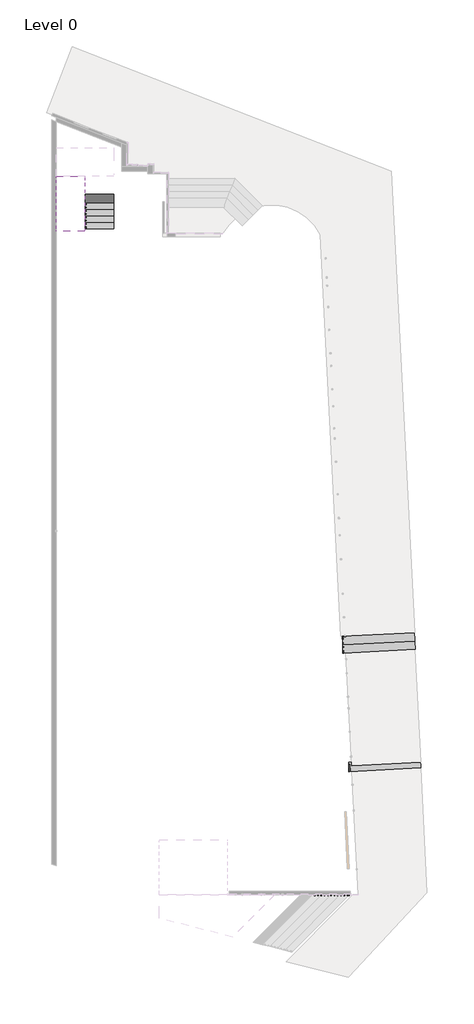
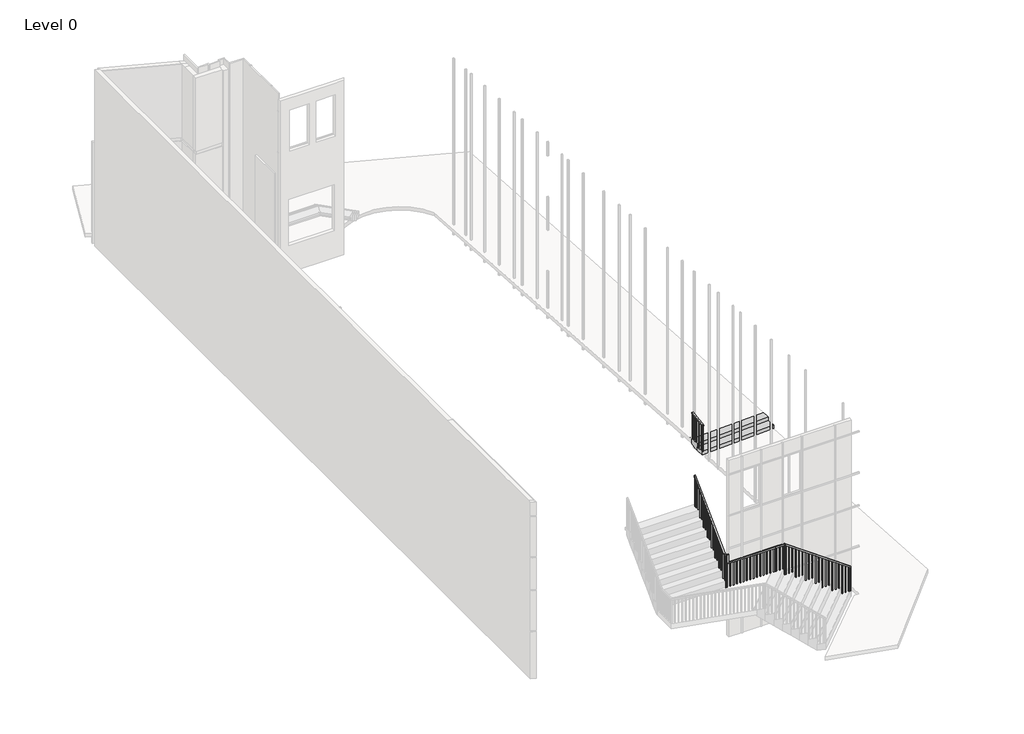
# One storey, part 5 of 6: 4 railings, 4 stair flights.
"""IFC4 building model written with IfcOpenShell, lengths in millimetres."""

from ifc_helpers import new_model, si_unit, frame, origin, place, context, project, spatial, polyline, outline, extrude, faceted_brep, element, save

model = new_model("IFC4")

# Units and contexts
model_context = context("Model", 3, world=origin())
ifc_project = project(units=[si_unit("LENGTHUNIT", "METRE", prefix="MILLI")], contexts=[model_context])

# Site, building, storey
site = spatial("IfcSite", under=ifc_project)
building = spatial("IfcBuilding", under=site)
storey = spatial("IfcBuildingStorey", under=building, Name="Level 0", Elevation=0.0)

# Railings
placement = place(None, origin())
element("IfcRailing", 1, ObjectType="1100mm", at=placement, inside=storey, context=model_context, shape_type="SweptSolid", body=[
    extrude(outline(polyline([(12495.266805, -12839.3681014), (12445.3314922, -12841.9106456), (12430.0762266, -12542.2987686), (12480.0115395, -12539.7562243), (12495.266805, -12839.3681014)])), frame((0.0, 0.0, 1200.0), z_axis=(0.0, 0.0, 1.0), x_axis=(1.0, 0.0, 0.0)), (0.0, 0.0, 1.0), 50.0),
    extrude(outline(polyline([(12447.0095073, -12629.04993), (12445.7382352, -12604.0822736), (12470.7058916, -12602.8110014), (12471.9771637, -12627.7786579), (12447.0095073, -12629.04993)])), frame((0.0, 0.0, 150.0), z_axis=(0.0, 0.0, 1.0), x_axis=(1.0, 0.0, 0.0)), (0.0, 0.0, 1.0), 1050.0),
    extrude(outline(polyline([(12454.6371401, -12778.8558685), (12453.3658679, -12753.8882121), (12478.3335244, -12752.61694), (12479.6047965, -12777.5845964), (12454.6371401, -12778.8558685)])), frame((0.0, 0.0, 150.0), z_axis=(0.0, 0.0, 1.0), x_axis=(1.0, 0.0, 0.0)), (0.0, 0.0, 1.0), 1050.0),
    extrude(outline(polyline([(12443.831327, -12566.6307889), (12442.5600548, -12541.6631325), (12467.5277113, -12540.3918604), (12468.7989834, -12565.3595168), (12443.831327, -12566.6307889)])), frame((0.0, 0.0, 150.0), z_axis=(0.0, 0.0, 1.0), x_axis=(1.0, 0.0, 0.0)), (0.0, 0.0, 1.0), 1050.0),
    extrude(outline(polyline([(12457.8153204, -12841.2750096), (12456.5440483, -12816.3073532), (12481.5117047, -12815.036081), (12482.7829768, -12840.0037374), (12457.8153204, -12841.2750096)])), frame((0.0, 0.0, 150.0), z_axis=(0.0, 0.0, 1.0), x_axis=(1.0, 0.0, 0.0)), (0.0, 0.0, 1.0), 1050.0),
])
element("IfcRailing", 2, ObjectType="1100mm", at=placement, inside=storey, context=model_context, shape_type="SweptSolid", body=[
    extrude(outline(polyline([(-10.7142857, -50.0), (0.0, 0.0), (715.8910532, 0.0), (705.1767675, -50.0), (-10.7142857, -50.0)])), frame((12187.8662587, -7785.3194312, 1475.0), z_axis=(0.9987062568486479, 0.05085088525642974, 0.0), x_axis=(-0.04972211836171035, 0.9765373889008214, 0.20952908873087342)), (0.0, 0.0, 1.0), 50.0),
    extrude(outline(polyline([(102.6785715, 0.0), (97.3214286, 25.0), (1205.1149248, 25.0), (1205.1149248, 0.0), (102.6785715, 0.0)])), frame((12169.8395557, -7185.460041, 1655.1149248), z_axis=(0.998706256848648, 0.050850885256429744, 0.0), x_axis=(0.0, 0.0, -1.0)), (0.0, 0.0, 1.0), 25.0),
    extrude(outline(polyline([(102.6785715, 0.0), (97.3214286, 25.0), (1167.6149248, 25.0), (1167.6149248, 0.0), (102.6785715, 0.0)])), frame((12178.7384607, -7360.2336359, 1617.6149248), z_axis=(0.998706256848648, 0.050850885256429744, 0.0), x_axis=(0.0, 0.0, -1.0)), (0.0, 0.0, 1.0), 25.0),
    extrude(outline(polyline([(102.6785715, 0.0), (97.3214286, 25.0), (1280.1149248, 25.0), (1280.1149248, 0.0), (102.6785715, 0.0)])), frame((12187.6373656, -7535.0072309, 1580.1149248), z_axis=(0.998706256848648, 0.050850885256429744, 0.0), x_axis=(0.0, 0.0, -1.0)), (0.0, 0.0, 1.0), 25.0),
    extrude(outline(polyline([(102.6785715, 0.0), (97.3214286, 25.0), (1242.6149248, 25.0), (1242.6149248, 0.0), (102.6785715, 0.0)])), frame((12196.5362705, -7709.7808258, 1542.6149248), z_axis=(0.998706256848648, 0.050850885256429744, 0.0), x_axis=(0.0, 0.0, -1.0)), (0.0, 0.0, 1.0), 25.0),
    extrude(outline(polyline([(102.6785714, 0.0), (97.3214285, 25.0), (1221.1863533, 25.0), (1221.1863533, 0.0), (102.6785714, 0.0)])), frame((12166.0257393, -7110.5570717, 1671.1863533), z_axis=(0.998706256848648, 0.050850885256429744, 0.0), x_axis=(0.0, 0.0, -1.0)), (0.0, 0.0, 1.0), 25.0),
    extrude(outline(polyline([(102.6785714, 0.0), (97.3214286, 25.0), (1226.5434962, 25.0), (1226.5434962, 0.0), (102.6785714, 0.0)])), frame((12200.3500869, -7784.6837951, 1526.5434962), z_axis=(0.998706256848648, 0.050850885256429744, 0.0), x_axis=(0.0, 0.0, -1.0)), (0.0, 0.0, 1.0), 25.0),
])
element("IfcRailing", 3, ObjectType="1100mm", at=placement, inside=storey, context=model_context, shape_type="SolidModel", body=[
    faceted_brep([(1179.9765888, 10328.8506586, 1377.7777778), (1179.9765888, 10328.8506586, 1307.3471386), (1229.9765888, 10328.8506586, 1307.3471386), (1229.9765888, 10328.8506586, 1377.7777778), (1179.9765888, 12288.8506586, 3322.2222222), (1179.9765888, 12309.4447429, 3272.2222222), (1229.9765888, 12309.4447429, 3272.2222222), (1229.9765888, 12288.8506586, 3322.2222222), (1179.9765888, 12569.2506586, 3322.2222222), (1179.9765888, 12569.2506586, 3272.2222222), (1229.9765888, 12619.2506586, 3272.2222222), (1229.9765888, 12619.2506586, 3322.2222222), (1159.5709975, 12569.2506586, 3322.2222222), (1159.5709975, 12619.2506586, 3322.2222222), (1109.5709975, 12619.2506586, 3272.2222222), (1109.5709975, 12569.2506586, 3272.2222222)], [[[0, 1, 2, 3]], [[1, 0, 4, 5]], [[2, 1, 5, 6]], [[3, 2, 6, 7]], [[0, 3, 7, 4]], [[5, 4, 8, 9]], [[6, 5, 9, 10]], [[7, 6, 10, 11]], [[4, 7, 11, 8]], [[12, 13, 14, 15]], [[9, 8, 12, 15]], [[10, 9, 15, 14]], [[11, 10, 14, 13]], [[8, 11, 13, 12]]]),
    faceted_brep([(1159.5709975, 12569.2506586, 3322.2222222), (1109.5709975, 12569.2506586, 3272.2222222), (1109.5709975, 12619.2506586, 3272.2222222), (1159.5709975, 12619.2506586, 3322.2222222), (1159.5709975, 12569.2506586, 3529.1725355), (1159.5709975, 12619.2506586, 3550.0), (1109.5709975, 12619.2506586, 3550.0), (1109.5709975, 12569.2506586, 3529.1725355)], [[[0, 1, 2, 3]], [[4, 5, 6, 7]], [[1, 0, 4, 7]], [[2, 1, 7, 6]], [[3, 2, 6, 5]], [[0, 3, 5, 4]]]),
    faceted_brep([(1159.5709975, 12619.2506586, 3550.0), (1159.5709975, 12569.2506586, 3529.1725355), (1109.5709975, 12569.2506586, 3529.1725355), (1109.5709975, 12619.2506586, 3550.0), (1159.5709975, 10328.8506586, 5822.2222222), (1109.5709975, 10328.8506586, 5822.2222222), (1109.5709975, 10328.8506586, 5751.7915831), (1159.5709975, 10328.8506586, 5751.7915831)], [[[0, 1, 2, 3]], [[4, 5, 6, 7]], [[1, 0, 4, 7]], [[2, 1, 7, 6]], [[3, 2, 6, 5]], [[0, 3, 5, 4]]]),
    extrude(outline(polyline([(10436.7506586, 4444.4444444), (10411.7506586, 4444.4444444), (10411.7506586, 5669.5495196), (10436.7506586, 5644.7479323), (10436.7506586, 4444.4444444)])), frame((1122.0709975, 0.0, 0.0), z_axis=(1.0, 0.0, 0.0), x_axis=(0.0, 1.0, 0.0)), (0.0, 0.0, 1.0), 25.0),
    extrude(outline(polyline([(10576.7506586, 4444.4444444), (10551.7506586, 4444.4444444), (10551.7506586, 5530.6606307), (10576.7506586, 5505.8590434), (10576.7506586, 4444.4444444)])), frame((1122.0709975, 0.0, 0.0), z_axis=(1.0, 0.0, 0.0), x_axis=(0.0, 1.0, 0.0)), (0.0, 0.0, 1.0), 25.0),
    extrude(outline(polyline([(10716.7506586, 4166.6666667), (10691.7506586, 4166.6666667), (10691.7506586, 5391.7717418), (10716.7506586, 5366.9701545), (10716.7506586, 4166.6666667)])), frame((1122.0709975, 0.0, 0.0), z_axis=(1.0, 0.0, 0.0), x_axis=(0.0, 1.0, 0.0)), (0.0, 0.0, 1.0), 25.0),
    extrude(outline(polyline([(10856.7506586, 4166.6666667), (10831.7506586, 4166.6666667), (10831.7506586, 5252.8828529), (10856.7506586, 5228.0812656), (10856.7506586, 4166.6666667)])), frame((1122.0709975, 0.0, 0.0), z_axis=(1.0, 0.0, 0.0), x_axis=(0.0, 1.0, 0.0)), (0.0, 0.0, 1.0), 25.0),
    extrude(outline(polyline([(10996.7506586, 3888.8888889), (10971.7506586, 3888.8888889), (10971.7506586, 5113.993964), (10996.7506586, 5089.1923767), (10996.7506586, 3888.8888889)])), frame((1122.0709975, 0.0, 0.0), z_axis=(1.0, 0.0, 0.0), x_axis=(0.0, 1.0, 0.0)), (0.0, 0.0, 1.0), 25.0),
    extrude(outline(polyline([(11136.7506586, 3888.8888889), (11111.7506586, 3888.8888889), (11111.7506586, 4975.1050751), (11136.7506586, 4950.3034878), (11136.7506586, 3888.8888889)])), frame((1122.0709975, 0.0, 0.0), z_axis=(1.0, 0.0, 0.0), x_axis=(0.0, 1.0, 0.0)), (0.0, 0.0, 1.0), 25.0),
    extrude(outline(polyline([(11276.7506586, 3611.1111111), (11251.7506586, 3611.1111111), (11251.7506586, 4836.2161862), (11276.7506586, 4811.4145989), (11276.7506586, 3611.1111111)])), frame((1122.0709975, 0.0, 0.0), z_axis=(1.0, 0.0, 0.0), x_axis=(0.0, 1.0, 0.0)), (0.0, 0.0, 1.0), 25.0),
    extrude(outline(polyline([(11416.7506586, 3611.1111111), (11391.7506586, 3611.1111111), (11391.7506586, 4697.3272974), (11416.7506586, 4672.5257101), (11416.7506586, 3611.1111111)])), frame((1122.0709975, 0.0, 0.0), z_axis=(1.0, 0.0, 0.0), x_axis=(0.0, 1.0, 0.0)), (0.0, 0.0, 1.0), 25.0),
    extrude(outline(polyline([(11556.7506586, 3333.3333333), (11531.7506586, 3333.3333333), (11531.7506586, 4558.4384085), (11556.7506586, 4533.6368212), (11556.7506586, 3333.3333333)])), frame((1122.0709975, 0.0, 0.0), z_axis=(1.0, 0.0, 0.0), x_axis=(0.0, 1.0, 0.0)), (0.0, 0.0, 1.0), 25.0),
    extrude(outline(polyline([(11696.7506586, 3333.3333333), (11671.7506586, 3333.3333333), (11671.7506586, 4419.5495196), (11696.7506586, 4394.7479323), (11696.7506586, 3333.3333333)])), frame((1122.0709975, 0.0, 0.0), z_axis=(1.0, 0.0, 0.0), x_axis=(0.0, 1.0, 0.0)), (0.0, 0.0, 1.0), 25.0),
    extrude(outline(polyline([(11836.7506586, 3055.5555556), (11811.7506586, 3055.5555556), (11811.7506586, 4280.6606307), (11836.7506586, 4255.8590434), (11836.7506586, 3055.5555556)])), frame((1122.0709975, 0.0, 0.0), z_axis=(1.0, 0.0, 0.0), x_axis=(0.0, 1.0, 0.0)), (0.0, 0.0, 1.0), 25.0),
    extrude(outline(polyline([(11976.7506586, 3055.5555556), (11951.7506586, 3055.5555556), (11951.7506586, 4141.7717418), (11976.7506586, 4116.9701545), (11976.7506586, 3055.5555556)])), frame((1122.0709975, 0.0, 0.0), z_axis=(1.0, 0.0, 0.0), x_axis=(0.0, 1.0, 0.0)), (0.0, 0.0, 1.0), 25.0),
    extrude(outline(polyline([(12116.7506586, 2777.7777778), (12091.7506586, 2777.7777778), (12091.7506586, 4002.8828529), (12116.7506586, 3978.0812656), (12116.7506586, 2777.7777778)])), frame((1122.0709975, 0.0, 0.0), z_axis=(1.0, 0.0, 0.0), x_axis=(0.0, 1.0, 0.0)), (0.0, 0.0, 1.0), 25.0),
    extrude(outline(polyline([(12256.7506586, 2777.7777778), (12231.7506586, 2777.7777778), (12231.7506586, 3863.993964), (12256.7506586, 3839.1923767), (12256.7506586, 2777.7777778)])), frame((1122.0709975, 0.0, 0.0), z_axis=(1.0, 0.0, 0.0), x_axis=(0.0, 1.0, 0.0)), (0.0, 0.0, 1.0), 25.0),
    extrude(outline(polyline([(12396.7506586, 2500.0), (12371.7506586, 2500.0), (12371.7506586, 3725.1050751), (12396.7506586, 3700.3034878), (12396.7506586, 2500.0)])), frame((1122.0709975, 0.0, 0.0), z_axis=(1.0, 0.0, 0.0), x_axis=(0.0, 1.0, 0.0)), (0.0, 0.0, 1.0), 25.0),
    extrude(outline(polyline([(12536.7506586, 2500.0), (12511.7506586, 2500.0), (12511.7506586, 3586.2161862), (12536.7506586, 3561.4145989), (12536.7506586, 2500.0)])), frame((1122.0709975, 0.0, 0.0), z_axis=(1.0, 0.0, 0.0), x_axis=(0.0, 1.0, 0.0)), (0.0, 0.0, 1.0), 25.0),
    extrude(outline(polyline([(1147.4765888, 12581.7506586), (1122.4765888, 12581.7506586), (1122.4765888, 12606.7506586), (1147.4765888, 12606.7506586), (1147.4765888, 12581.7506586)])), frame((0.0, 0.0, 2222.2222222), z_axis=(0.0, 0.0, 1.0), x_axis=(1.0, 0.0, 0.0)), (0.0, 0.0, 1.0), 1050.0),
    extrude(outline(polyline([(1192.4765888, 12486.3506586), (1192.4765888, 12511.3506586), (1217.4765888, 12511.3506586), (1217.4765888, 12486.3506586), (1192.4765888, 12486.3506586)])), frame((0.0, 0.0, 2222.2222222), z_axis=(0.0, 0.0, 1.0), x_axis=(1.0, 0.0, 0.0)), (0.0, 0.0, 1.0), 1050.0),
    extrude(outline(polyline([(1192.4765888, 12346.3506586), (1192.4765888, 12371.3506586), (1217.4765888, 12371.3506586), (1217.4765888, 12346.3506586), (1192.4765888, 12346.3506586)])), frame((0.0, 0.0, 2222.2222222), z_axis=(0.0, 0.0, 1.0), x_axis=(1.0, 0.0, 0.0)), (0.0, 0.0, 1.0), 1050.0),
    extrude(outline(polyline([(12206.3506586, 3169.946345), (12231.3506586, 3194.7479323), (12231.3506586, 1944.4444444), (12206.3506586, 1944.4444444), (12206.3506586, 3169.946345)])), frame((1192.4765888, 0.0, 0.0), z_axis=(1.0, 0.0, 0.0), x_axis=(0.0, 1.0, 0.0)), (0.0, 0.0, 1.0), 25.0),
    extrude(outline(polyline([(12066.3506586, 3031.0574561), (12091.3506586, 3055.8590434), (12091.3506586, 1944.4444444), (12066.3506586, 1944.4444444), (12066.3506586, 3031.0574561)])), frame((1192.4765888, 0.0, 0.0), z_axis=(1.0, 0.0, 0.0), x_axis=(0.0, 1.0, 0.0)), (0.0, 0.0, 1.0), 25.0),
    extrude(outline(polyline([(11926.3506586, 2892.1685672), (11951.3506586, 2916.9701545), (11951.3506586, 1666.6666667), (11926.3506586, 1666.6666667), (11926.3506586, 2892.1685672)])), frame((1192.4765888, 0.0, 0.0), z_axis=(1.0, 0.0, 0.0), x_axis=(0.0, 1.0, 0.0)), (0.0, 0.0, 1.0), 25.0),
    extrude(outline(polyline([(11786.3506586, 2753.2796783), (11811.3506586, 2778.0812656), (11811.3506586, 1666.6666667), (11786.3506586, 1666.6666667), (11786.3506586, 2753.2796783)])), frame((1192.4765888, 0.0, 0.0), z_axis=(1.0, 0.0, 0.0), x_axis=(0.0, 1.0, 0.0)), (0.0, 0.0, 1.0), 25.0),
    extrude(outline(polyline([(11646.3506586, 2614.3907894), (11671.3506586, 2639.1923767), (11671.3506586, 1388.8888889), (11646.3506586, 1388.8888889), (11646.3506586, 2614.3907894)])), frame((1192.4765888, 0.0, 0.0), z_axis=(1.0, 0.0, 0.0), x_axis=(0.0, 1.0, 0.0)), (0.0, 0.0, 1.0), 25.0),
    extrude(outline(polyline([(11506.3506586, 2475.5019005), (11531.3506586, 2500.3034878), (11531.3506586, 1388.8888889), (11506.3506586, 1388.8888889), (11506.3506586, 2475.5019005)])), frame((1192.4765888, 0.0, 0.0), z_axis=(1.0, 0.0, 0.0), x_axis=(0.0, 1.0, 0.0)), (0.0, 0.0, 1.0), 25.0),
    extrude(outline(polyline([(11366.3506586, 2336.6130116), (11391.3506586, 2361.4145989), (11391.3506586, 1111.1111111), (11366.3506586, 1111.1111111), (11366.3506586, 2336.6130116)])), frame((1192.4765888, 0.0, 0.0), z_axis=(1.0, 0.0, 0.0), x_axis=(0.0, 1.0, 0.0)), (0.0, 0.0, 1.0), 25.0),
    extrude(outline(polyline([(11226.3506586, 2197.7241228), (11251.3506586, 2222.5257101), (11251.3506586, 1111.1111111), (11226.3506586, 1111.1111111), (11226.3506586, 2197.7241228)])), frame((1192.4765888, 0.0, 0.0), z_axis=(1.0, 0.0, 0.0), x_axis=(0.0, 1.0, 0.0)), (0.0, 0.0, 1.0), 25.0),
    extrude(outline(polyline([(11086.3506586, 2058.8352339), (11111.3506586, 2083.6368212), (11111.3506586, 833.3333333), (11086.3506586, 833.3333333), (11086.3506586, 2058.8352339)])), frame((1192.4765888, 0.0, 0.0), z_axis=(1.0, 0.0, 0.0), x_axis=(0.0, 1.0, 0.0)), (0.0, 0.0, 1.0), 25.0),
    extrude(outline(polyline([(10946.3506586, 1919.946345), (10971.3506586, 1944.7479323), (10971.3506586, 833.3333333), (10946.3506586, 833.3333333), (10946.3506586, 1919.946345)])), frame((1192.4765888, 0.0, 0.0), z_axis=(1.0, 0.0, 0.0), x_axis=(0.0, 1.0, 0.0)), (0.0, 0.0, 1.0), 25.0),
    extrude(outline(polyline([(10806.3506586, 1781.0574561), (10831.3506586, 1805.8590434), (10831.3506586, 555.5555556), (10806.3506586, 555.5555556), (10806.3506586, 1781.0574561)])), frame((1192.4765888, 0.0, 0.0), z_axis=(1.0, 0.0, 0.0), x_axis=(0.0, 1.0, 0.0)), (0.0, 0.0, 1.0), 25.0),
    extrude(outline(polyline([(10666.3506586, 1642.1685672), (10691.3506586, 1666.9701545), (10691.3506586, 555.5555556), (10666.3506586, 555.5555556), (10666.3506586, 1642.1685672)])), frame((1192.4765888, 0.0, 0.0), z_axis=(1.0, 0.0, 0.0), x_axis=(0.0, 1.0, 0.0)), (0.0, 0.0, 1.0), 25.0),
    extrude(outline(polyline([(10526.3506586, 1503.2796783), (10551.3506586, 1528.0812656), (10551.3506586, 277.7777778), (10526.3506586, 277.7777778), (10526.3506586, 1503.2796783)])), frame((1192.4765888, 0.0, 0.0), z_axis=(1.0, 0.0, 0.0), x_axis=(0.0, 1.0, 0.0)), (0.0, 0.0, 1.0), 25.0),
    extrude(outline(polyline([(10386.3506586, 1364.3907894), (10411.3506586, 1389.1923767), (10411.3506586, 277.7777778), (10386.3506586, 277.7777778), (10386.3506586, 1364.3907894)])), frame((1192.4765888, 0.0, 0.0), z_axis=(1.0, 0.0, 0.0), x_axis=(0.0, 1.0, 0.0)), (0.0, 0.0, 1.0), 25.0),
    extrude(outline(polyline([(1147.0709975, 12606.7506586), (1147.0709975, 12581.7506586), (1122.0709975, 12581.7506586), (1122.0709975, 12606.7506586), (1147.0709975, 12606.7506586)])), frame((0.0, 0.0, 2222.2222222), z_axis=(0.0, 0.0, 1.0), x_axis=(1.0, 0.0, 0.0)), (0.0, 0.0, 1.0), 1050.0),
    extrude(outline(polyline([(1192.4765888, 12581.7506586), (1192.4765888, 12606.7506586), (1217.4765888, 12606.7506586), (1217.4765888, 12581.7506586), (1192.4765888, 12581.7506586)])), frame((0.0, 0.0, 2222.2222222), z_axis=(0.0, 0.0, 1.0), x_axis=(1.0, 0.0, 0.0)), (0.0, 0.0, 1.0), 1050.0),
    extrude(outline(polyline([(12276.3506586, 3239.3907894), (12301.3506586, 3264.1923767), (12301.3506586, 2222.2222222), (12276.3506586, 2222.2222222), (12276.3506586, 3239.3907894)])), frame((1192.4765888, 0.0, 0.0), z_axis=(1.0, 0.0, 0.0), x_axis=(0.0, 1.0, 0.0)), (0.0, 0.0, 1.0), 25.0),
    extrude(outline(polyline([(10353.8506586, 4444.4444444), (10328.8506586, 4444.4444444), (10328.8506586, 5751.7915831), (10353.8506586, 5726.9899958), (10353.8506586, 4444.4444444)])), frame((1122.0709975, 0.0, 0.0), z_axis=(1.0, 0.0, 0.0), x_axis=(0.0, 1.0, 0.0)), (0.0, 0.0, 1.0), 25.0),
    extrude(outline(polyline([(10328.8506586, 1307.3471386), (10353.8506586, 1332.1487259), (10353.8506586, 277.7777778), (10328.8506586, 277.7777778), (10328.8506586, 1307.3471386)])), frame((1192.4765888, 0.0, 0.0), z_axis=(1.0, 0.0, 0.0), x_axis=(0.0, 1.0, 0.0)), (0.0, 0.0, 1.0), 25.0),
])
element("IfcRailing", 4, ObjectType="1100mm", at=placement, inside=storey, context=model_context, shape_type="SolidModel", body=[
    faceted_brep([(12451.5793502, -18157.5880385, 1381.25), (12451.5793502, -18157.5880385, 1319.9214942), (12451.5793502, -18107.5880385, 1319.9214942), (12451.5793502, -18107.5880385, 1381.25), (9679.7207679, -18157.5880385, 3350.0), (9663.7710455, -18157.5880385, 3300.0), (9663.7710455, -18107.5880385, 3300.0), (9679.7207679, -18107.5880385, 3350.0), (9283.6689336, -18157.5880385, 3350.0), (9283.6689336, -18157.5880385, 3300.0), (9283.6689336, -18107.5876363, 3300.0), (9283.6689336, -18107.5880385, 3350.0), (7189.2961806, -15855.5937279, 5881.25), (7239.2961806, -15855.5937279, 5881.25), (7239.2961806, -15855.5937279, 5810.3813098), (7189.2961806, -15855.5937279, 5810.3813098), (7189.2961806, -18000.0741211, 3656.3273433), (7189.2961806, -18020.8500616, 3706.3273433), (7239.2961806, -18000.0741211, 3656.3273433), (7239.2961806, -18020.8500616, 3706.3273433), (7314.1527682, -18146.4168742, 3350.0), (7264.1535725, -18146.1332668, 3300.0), (7264.4371799, -18096.1340712, 3300.0), (7314.4363756, -18096.4176785, 3350.0), (7314.1527682, -18146.4168742, 3706.3273433), (7264.1535725, -18146.1332668, 3656.3273433), (7264.4371799, -18096.1340712, 3656.3273433), (7314.4363756, -18096.4176785, 3706.3273433), (7189.2961806, -18145.7086578, 3706.3273433), (7189.2961806, -18145.7086578, 3656.3273433), (7239.2961806, -18095.9914654, 3656.3273433), (7239.2961806, -18095.9914654, 3706.3273433)], [[[0, 1, 2, 3]], [[1, 0, 4, 5]], [[2, 1, 5, 6]], [[3, 2, 6, 7]], [[0, 3, 7, 4]], [[5, 4, 8, 9]], [[6, 5, 9, 10]], [[7, 6, 10, 11]], [[4, 7, 11, 8]], [[12, 13, 14, 15]], [[16, 17, 12, 15]], [[18, 16, 15, 14]], [[19, 18, 14, 13]], [[17, 19, 13, 12]], [[9, 8, 20, 21]], [[10, 9, 21, 22]], [[11, 10, 22, 23]], [[8, 11, 23, 20]], [[21, 20, 24, 25]], [[22, 21, 25, 26]], [[23, 22, 26, 27]], [[20, 23, 27, 24]], [[25, 24, 28, 29]], [[26, 25, 29, 30]], [[27, 26, 30, 31]], [[24, 27, 31, 28]], [[29, 28, 17, 16]], [[30, 29, 16, 18]], [[31, 30, 18, 19]], [[28, 31, 19, 17]]]),
    extrude(outline(polyline([(-15963.3500616, 4500.0), (-15963.3500616, 5702.143921), (-15938.3500616, 5727.2555281), (-15938.3500616, 4500.0), (-15963.3500616, 4500.0)])), frame((7201.7961806, 0.0, 0.0), z_axis=(1.0, 0.0, 0.0), x_axis=(0.0, 1.0, 0.0)), (0.0, 0.0, 1.0), 25.0),
    extrude(outline(polyline([(-16103.3500616, 4500.0), (-16103.3500616, 5561.518921), (-16078.3500616, 5586.6305281), (-16078.3500616, 4500.0), (-16103.3500616, 4500.0)])), frame((7201.7961806, 0.0, 0.0), z_axis=(1.0, 0.0, 0.0), x_axis=(0.0, 1.0, 0.0)), (0.0, 0.0, 1.0), 25.0),
    extrude(outline(polyline([(-16243.3500616, 4218.75), (-16243.3500616, 5420.893921), (-16218.3500616, 5446.0055281), (-16218.3500616, 4218.75), (-16243.3500616, 4218.75)])), frame((7201.7961806, 0.0, 0.0), z_axis=(1.0, 0.0, 0.0), x_axis=(0.0, 1.0, 0.0)), (0.0, 0.0, 1.0), 25.0),
    extrude(outline(polyline([(-16383.3500616, 4218.75), (-16383.3500616, 5280.268921), (-16358.3500616, 5305.3805281), (-16358.3500616, 4218.75), (-16383.3500616, 4218.75)])), frame((7201.7961806, 0.0, 0.0), z_axis=(1.0, 0.0, 0.0), x_axis=(0.0, 1.0, 0.0)), (0.0, 0.0, 1.0), 25.0),
    extrude(outline(polyline([(-16523.3500616, 3937.5), (-16523.3500616, 5139.643921), (-16498.3500616, 5164.7555281), (-16498.3500616, 3937.5), (-16523.3500616, 3937.5)])), frame((7201.7961806, 0.0, 0.0), z_axis=(1.0, 0.0, 0.0), x_axis=(0.0, 1.0, 0.0)), (0.0, 0.0, 1.0), 25.0),
    extrude(outline(polyline([(-16663.3500616, 3937.5), (-16663.3500616, 4999.018921), (-16638.3500616, 5024.1305281), (-16638.3500616, 3937.5), (-16663.3500616, 3937.5)])), frame((7201.7961806, 0.0, 0.0), z_axis=(1.0, 0.0, 0.0), x_axis=(0.0, 1.0, 0.0)), (0.0, 0.0, 1.0), 25.0),
    extrude(outline(polyline([(-16803.3500616, 3656.25), (-16803.3500616, 4858.393921), (-16778.3500616, 4883.5055281), (-16778.3500616, 3656.25), (-16803.3500616, 3656.25)])), frame((7201.7961806, 0.0, 0.0), z_axis=(1.0, 0.0, 0.0), x_axis=(0.0, 1.0, 0.0)), (0.0, 0.0, 1.0), 25.0),
    extrude(outline(polyline([(-16943.3500616, 3656.25), (-16943.3500616, 4717.768921), (-16918.3500616, 4742.8805281), (-16918.3500616, 3656.25), (-16943.3500616, 3656.25)])), frame((7201.7961806, 0.0, 0.0), z_axis=(1.0, 0.0, 0.0), x_axis=(0.0, 1.0, 0.0)), (0.0, 0.0, 1.0), 25.0),
    extrude(outline(polyline([(-17083.3500616, 3375.0), (-17083.3500616, 4577.143921), (-17058.3500616, 4602.2555281), (-17058.3500616, 3375.0), (-17083.3500616, 3375.0)])), frame((7201.7961806, 0.0, 0.0), z_axis=(1.0, 0.0, 0.0), x_axis=(0.0, 1.0, 0.0)), (0.0, 0.0, 1.0), 25.0),
    extrude(outline(polyline([(-17223.3500616, 3375.0), (-17223.3500616, 4436.518921), (-17198.3500616, 4461.6305281), (-17198.3500616, 3375.0), (-17223.3500616, 3375.0)])), frame((7201.7961806, 0.0, 0.0), z_axis=(1.0, 0.0, 0.0), x_axis=(0.0, 1.0, 0.0)), (0.0, 0.0, 1.0), 25.0),
    extrude(outline(polyline([(-17363.3500616, 3093.75), (-17363.3500616, 4295.893921), (-17338.3500616, 4321.0055281), (-17338.3500616, 3093.75), (-17363.3500616, 3093.75)])), frame((7201.7961806, 0.0, 0.0), z_axis=(1.0, 0.0, 0.0), x_axis=(0.0, 1.0, 0.0)), (0.0, 0.0, 1.0), 25.0),
    extrude(outline(polyline([(-17503.3500616, 3093.75), (-17503.3500616, 4155.268921), (-17478.3500616, 4180.3805281), (-17478.3500616, 3093.75), (-17503.3500616, 3093.75)])), frame((7201.7961806, 0.0, 0.0), z_axis=(1.0, 0.0, 0.0), x_axis=(0.0, 1.0, 0.0)), (0.0, 0.0, 1.0), 25.0),
    extrude(outline(polyline([(-17643.3500616, 2812.5), (-17643.3500616, 4014.643921), (-17618.3500616, 4039.7555281), (-17618.3500616, 2812.5), (-17643.3500616, 2812.5)])), frame((7201.7961806, 0.0, 0.0), z_axis=(1.0, 0.0, 0.0), x_axis=(0.0, 1.0, 0.0)), (0.0, 0.0, 1.0), 25.0),
    extrude(outline(polyline([(-17783.3500616, 2812.5), (-17783.3500616, 3874.018921), (-17758.3500616, 3899.1305281), (-17758.3500616, 2812.5), (-17783.3500616, 2812.5)])), frame((7201.7961806, 0.0, 0.0), z_axis=(1.0, 0.0, 0.0), x_axis=(0.0, 1.0, 0.0)), (0.0, 0.0, 1.0), 25.0),
    extrude(outline(polyline([(-17923.3500616, 2531.25), (-17923.3500616, 3733.393921), (-17898.3500616, 3758.5055281), (-17898.3500616, 2531.25), (-17923.3500616, 2531.25)])), frame((7201.7961806, 0.0, 0.0), z_axis=(1.0, 0.0, 0.0), x_axis=(0.0, 1.0, 0.0)), (0.0, 0.0, 1.0), 25.0),
    extrude(outline(polyline([(7226.7961806, -18063.3500616), (7201.7961806, -18063.3500616), (7201.7961806, -18038.3500616), (7226.7961806, -18038.3500616), (7226.7961806, -18063.3500616)])), frame((0.0, 0.0, 2531.25), z_axis=(0.0, 0.0, 1.0), x_axis=(1.0, 0.0, 0.0)), (0.0, 0.0, 1.0), 1125.0773433),
    extrude(outline(polyline([(7266.2722905, -18108.6446814), (7266.1304868, -18133.6442793), (7241.130889, -18133.5024756), (7241.2726927, -18108.5028777), (7266.2722905, -18108.6446814)])), frame((0.0, 0.0, 2250.0), z_axis=(0.0, 0.0, 1.0), x_axis=(1.0, 0.0, 0.0)), (0.0, 0.0, 1.0), 1050.0),
    extrude(outline(polyline([(7406.2700384, -18109.4387821), (7406.1282347, -18134.43838), (7381.1286368, -18134.2965763), (7381.2704405, -18109.2969784), (7406.2700384, -18109.4387821)])), frame((0.0, 0.0, 2250.0), z_axis=(0.0, 0.0, 1.0), x_axis=(1.0, 0.0, 0.0)), (0.0, 0.0, 1.0), 1050.0),
    extrude(outline(polyline([(7546.2677862, -18110.2328828), (7546.1259825, -18135.2324806), (7521.1263847, -18135.0906769), (7521.2681884, -18110.0910791), (7546.2677862, -18110.2328828)])), frame((0.0, 0.0, 2250.0), z_axis=(0.0, 0.0, 1.0), x_axis=(1.0, 0.0, 0.0)), (0.0, 0.0, 1.0), 1050.0),
    extrude(outline(polyline([(7686.2655341, -18111.0269835), (7686.1237304, -18136.0265813), (7661.1241326, -18135.8847776), (7661.2659362, -18110.8851798), (7686.2655341, -18111.0269835)])), frame((0.0, 0.0, 2250.0), z_axis=(0.0, 0.0, 1.0), x_axis=(1.0, 0.0, 0.0)), (0.0, 0.0, 1.0), 1050.0),
    extrude(outline(polyline([(7826.2632819, -18111.8210842), (7826.1214782, -18136.820682), (7801.1218804, -18136.6788783), (7801.2636841, -18111.6792805), (7826.2632819, -18111.8210842)])), frame((0.0, 0.0, 2250.0), z_axis=(0.0, 0.0, 1.0), x_axis=(1.0, 0.0, 0.0)), (0.0, 0.0, 1.0), 1050.0),
    extrude(outline(polyline([(7966.2610298, -18112.6151849), (7966.1192261, -18137.6147827), (7941.1196283, -18137.472979), (7941.261432, -18112.4733812), (7966.2610298, -18112.6151849)])), frame((0.0, 0.0, 2250.0), z_axis=(0.0, 0.0, 1.0), x_axis=(1.0, 0.0, 0.0)), (0.0, 0.0, 1.0), 1050.0),
    extrude(outline(polyline([(8106.2587776, -18113.4092856), (8106.1169739, -18138.4088834), (8081.1173761, -18138.2670797), (8081.2591798, -18113.2674819), (8106.2587776, -18113.4092856)])), frame((0.0, 0.0, 2250.0), z_axis=(0.0, 0.0, 1.0), x_axis=(1.0, 0.0, 0.0)), (0.0, 0.0, 1.0), 1050.0),
    extrude(outline(polyline([(8246.2565255, -18114.2033863), (8246.1147218, -18139.2029841), (8221.115124, -18139.0611804), (8221.2569277, -18114.0615826), (8246.2565255, -18114.2033863)])), frame((0.0, 0.0, 2250.0), z_axis=(0.0, 0.0, 1.0), x_axis=(1.0, 0.0, 0.0)), (0.0, 0.0, 1.0), 1050.0),
    extrude(outline(polyline([(8386.2542733, -18114.9974869), (8386.1124697, -18139.9970848), (8361.1128718, -18139.8552811), (8361.2546755, -18114.8556832), (8386.2542733, -18114.9974869)])), frame((0.0, 0.0, 2250.0), z_axis=(0.0, 0.0, 1.0), x_axis=(1.0, 0.0, 0.0)), (0.0, 0.0, 1.0), 1050.0),
    extrude(outline(polyline([(8526.2520212, -18115.7915876), (8526.1102175, -18140.7911855), (8501.1106197, -18140.6493818), (8501.2524234, -18115.6497839), (8526.2520212, -18115.7915876)])), frame((0.0, 0.0, 2250.0), z_axis=(0.0, 0.0, 1.0), x_axis=(1.0, 0.0, 0.0)), (0.0, 0.0, 1.0), 1050.0),
    extrude(outline(polyline([(8666.2497691, -18116.5856883), (8666.1079654, -18141.5852862), (8641.1083675, -18141.4434825), (8641.2501712, -18116.4438846), (8666.2497691, -18116.5856883)])), frame((0.0, 0.0, 2250.0), z_axis=(0.0, 0.0, 1.0), x_axis=(1.0, 0.0, 0.0)), (0.0, 0.0, 1.0), 1050.0),
    extrude(outline(polyline([(8806.2475169, -18117.379789), (8806.1057132, -18142.3793868), (8781.1061154, -18142.2375831), (8781.2479191, -18117.2379853), (8806.2475169, -18117.379789)])), frame((0.0, 0.0, 2250.0), z_axis=(0.0, 0.0, 1.0), x_axis=(1.0, 0.0, 0.0)), (0.0, 0.0, 1.0), 1050.0),
    extrude(outline(polyline([(8946.2452648, -18118.1738897), (8946.1034611, -18143.1734875), (8921.1038632, -18143.0316838), (8921.2456669, -18118.032086), (8946.2452648, -18118.1738897)])), frame((0.0, 0.0, 2250.0), z_axis=(0.0, 0.0, 1.0), x_axis=(1.0, 0.0, 0.0)), (0.0, 0.0, 1.0), 1050.0),
    extrude(outline(polyline([(9086.2430126, -18118.9679904), (9086.1012089, -18143.9675882), (9061.1016111, -18143.8257845), (9061.2434148, -18118.8261867), (9086.2430126, -18118.9679904)])), frame((0.0, 0.0, 2250.0), z_axis=(0.0, 0.0, 1.0), x_axis=(1.0, 0.0, 0.0)), (0.0, 0.0, 1.0), 1050.0),
    extrude(outline(polyline([(9226.2407605, -18119.7620911), (9226.0989568, -18144.7616889), (9201.0993589, -18144.6198852), (9201.2411626, -18119.6202874), (9226.2407605, -18119.7620911)])), frame((0.0, 0.0, 2250.0), z_axis=(0.0, 0.0, 1.0), x_axis=(1.0, 0.0, 0.0)), (0.0, 0.0, 1.0), 1050.0),
    extrude(outline(polyline([(9342.2207679, -18120.0880385), (9342.2207679, -18145.0880385), (9317.2207679, -18145.0880385), (9317.2207679, -18120.0880385), (9342.2207679, -18120.0880385)])), frame((0.0, 0.0, 2250.0), z_axis=(0.0, 0.0, 1.0), x_axis=(1.0, 0.0, 0.0)), (0.0, 0.0, 1.0), 1050.0),
    extrude(outline(polyline([(9482.2207679, -18120.0880385), (9482.2207679, -18145.0880385), (9457.2207679, -18145.0880385), (9457.2207679, -18120.0880385), (9482.2207679, -18120.0880385)])), frame((0.0, 0.0, 2250.0), z_axis=(0.0, 0.0, 1.0), x_axis=(1.0, 0.0, 0.0)), (0.0, 0.0, 1.0), 1050.0),
    extrude(outline(polyline([(9622.2207679, -18120.0880385), (9622.2207679, -18145.0880385), (9597.2207679, -18145.0880385), (9597.2207679, -18120.0880385), (9622.2207679, -18120.0880385)])), frame((0.0, 0.0, 2250.0), z_axis=(0.0, 0.0, 1.0), x_axis=(1.0, 0.0, 0.0)), (0.0, 0.0, 1.0), 1050.0),
    extrude(outline(polyline([(1968.75, 9734.0793502), (3250.0625769, 9734.0793502), (3267.8191646, 9709.0793502), (1968.75, 9709.0793502), (1968.75, 9734.0793502)])), frame((0.0, -18145.0880385, 0.0), z_axis=(0.0, 1.0, 0.0), x_axis=(0.0, 0.0, 1.0)), (0.0, 0.0, 1.0), 25.0),
    extrude(outline(polyline([(1968.75, 9874.0793502), (3150.6256858, 9874.0793502), (3168.3822735, 9849.0793502), (1968.75, 9849.0793502), (1968.75, 9874.0793502)])), frame((0.0, -18145.0880385, 0.0), z_axis=(0.0, 1.0, 0.0), x_axis=(0.0, 0.0, 1.0)), (0.0, 0.0, 1.0), 25.0),
    extrude(outline(polyline([(1968.75, 10014.0793502), (3051.1887947, 10014.0793502), (3068.9453824, 9989.0793502), (1968.75, 9989.0793502), (1968.75, 10014.0793502)])), frame((0.0, -18145.0880385, 0.0), z_axis=(0.0, 1.0, 0.0), x_axis=(0.0, 0.0, 1.0)), (0.0, 0.0, 1.0), 25.0),
    extrude(outline(polyline([(1687.5, 10154.0793502), (2951.7519035, 10154.0793502), (2969.5084912, 10129.0793502), (1687.5, 10129.0793502), (1687.5, 10154.0793502)])), frame((0.0, -18145.0880385, 0.0), z_axis=(0.0, 1.0, 0.0), x_axis=(0.0, 0.0, 1.0)), (0.0, 0.0, 1.0), 25.0),
    extrude(outline(polyline([(1687.5, 10294.0793502), (2852.3150124, 10294.0793502), (2870.0716001, 10269.0793502), (1687.5, 10269.0793502), (1687.5, 10294.0793502)])), frame((0.0, -18145.0880385, 0.0), z_axis=(0.0, 1.0, 0.0), x_axis=(0.0, 0.0, 1.0)), (0.0, 0.0, 1.0), 25.0),
    extrude(outline(polyline([(1687.5, 10434.0793502), (2752.8781213, 10434.0793502), (2770.634709, 10409.0793502), (1687.5, 10409.0793502), (1687.5, 10434.0793502)])), frame((0.0, -18145.0880385, 0.0), z_axis=(0.0, 1.0, 0.0), x_axis=(0.0, 0.0, 1.0)), (0.0, 0.0, 1.0), 25.0),
    extrude(outline(polyline([(1406.25, 10574.0793502), (2653.4412302, 10574.0793502), (2671.1978179, 10549.0793502), (1406.25, 10549.0793502), (1406.25, 10574.0793502)])), frame((0.0, -18145.0880385, 0.0), z_axis=(0.0, 1.0, 0.0), x_axis=(0.0, 0.0, 1.0)), (0.0, 0.0, 1.0), 25.0),
    extrude(outline(polyline([(1406.25, 10714.0793502), (2554.0043391, 10714.0793502), (2571.7609268, 10689.0793502), (1406.25, 10689.0793502), (1406.25, 10714.0793502)])), frame((0.0, -18145.0880385, 0.0), z_axis=(0.0, 1.0, 0.0), x_axis=(0.0, 0.0, 1.0)), (0.0, 0.0, 1.0), 25.0),
    extrude(outline(polyline([(1406.25, 10854.0793502), (2454.567448, 10854.0793502), (2472.3240357, 10829.0793502), (1406.25, 10829.0793502), (1406.25, 10854.0793502)])), frame((0.0, -18145.0880385, 0.0), z_axis=(0.0, 1.0, 0.0), x_axis=(0.0, 0.0, 1.0)), (0.0, 0.0, 1.0), 25.0),
    extrude(outline(polyline([(1125.0, 10994.0793502), (2355.1305569, 10994.0793502), (2372.8871446, 10969.0793502), (1125.0, 10969.0793502), (1125.0, 10994.0793502)])), frame((0.0, -18145.0880385, 0.0), z_axis=(0.0, 1.0, 0.0), x_axis=(0.0, 0.0, 1.0)), (0.0, 0.0, 1.0), 25.0),
    extrude(outline(polyline([(1125.0, 11134.0793502), (2255.6936658, 11134.0793502), (2273.4502535, 11109.0793502), (1125.0, 11109.0793502), (1125.0, 11134.0793502)])), frame((0.0, -18145.0880385, 0.0), z_axis=(0.0, 1.0, 0.0), x_axis=(0.0, 0.0, 1.0)), (0.0, 0.0, 1.0), 25.0),
    extrude(outline(polyline([(843.75, 11274.0793502), (2156.2567747, 11274.0793502), (2174.0133624, 11249.0793502), (843.75, 11249.0793502), (843.75, 11274.0793502)])), frame((0.0, -18145.0880385, 0.0), z_axis=(0.0, 1.0, 0.0), x_axis=(0.0, 0.0, 1.0)), (0.0, 0.0, 1.0), 25.0),
    extrude(outline(polyline([(843.75, 11414.0793502), (2056.8198836, 11414.0793502), (2074.5764713, 11389.0793502), (843.75, 11389.0793502), (843.75, 11414.0793502)])), frame((0.0, -18145.0880385, 0.0), z_axis=(0.0, 1.0, 0.0), x_axis=(0.0, 0.0, 1.0)), (0.0, 0.0, 1.0), 25.0),
    extrude(outline(polyline([(843.75, 11554.0793502), (1957.3829925, 11554.0793502), (1975.1395802, 11529.0793502), (843.75, 11529.0793502), (843.75, 11554.0793502)])), frame((0.0, -18145.0880385, 0.0), z_axis=(0.0, 1.0, 0.0), x_axis=(0.0, 0.0, 1.0)), (0.0, 0.0, 1.0), 25.0),
    extrude(outline(polyline([(562.5, 11694.0793502), (1857.9461014, 11694.0793502), (1875.7026891, 11669.0793502), (562.5, 11669.0793502), (562.5, 11694.0793502)])), frame((0.0, -18145.0880385, 0.0), z_axis=(0.0, 1.0, 0.0), x_axis=(0.0, 0.0, 1.0)), (0.0, 0.0, 1.0), 25.0),
    extrude(outline(polyline([(562.5, 11834.0793502), (1758.5092103, 11834.0793502), (1776.265798, 11809.0793502), (562.5, 11809.0793502), (562.5, 11834.0793502)])), frame((0.0, -18145.0880385, 0.0), z_axis=(0.0, 1.0, 0.0), x_axis=(0.0, 0.0, 1.0)), (0.0, 0.0, 1.0), 25.0),
    extrude(outline(polyline([(562.5, 11974.0793502), (1659.0723192, 11974.0793502), (1676.8289069, 11949.0793502), (562.5, 11949.0793502), (562.5, 11974.0793502)])), frame((0.0, -18145.0880385, 0.0), z_axis=(0.0, 1.0, 0.0), x_axis=(0.0, 0.0, 1.0)), (0.0, 0.0, 1.0), 25.0),
    extrude(outline(polyline([(281.25, 12114.0793502), (1559.6354281, 12114.0793502), (1577.3920158, 12089.0793502), (281.25, 12089.0793502), (281.25, 12114.0793502)])), frame((0.0, -18145.0880385, 0.0), z_axis=(0.0, 1.0, 0.0), x_axis=(0.0, 0.0, 1.0)), (0.0, 0.0, 1.0), 25.0),
    extrude(outline(polyline([(281.25, 12254.0793502), (1460.198537, 12254.0793502), (1477.9551247, 12229.0793502), (281.25, 12229.0793502), (281.25, 12254.0793502)])), frame((0.0, -18145.0880385, 0.0), z_axis=(0.0, 1.0, 0.0), x_axis=(0.0, 0.0, 1.0)), (0.0, 0.0, 1.0), 25.0),
    extrude(outline(polyline([(281.25, 12394.0793502), (1360.7616459, 12394.0793502), (1378.5182336, 12369.0793502), (281.25, 12369.0793502), (281.25, 12394.0793502)])), frame((0.0, -18145.0880385, 0.0), z_axis=(0.0, 1.0, 0.0), x_axis=(0.0, 0.0, 1.0)), (0.0, 0.0, 1.0), 25.0),
    extrude(outline(polyline([(7226.7961806, -18133.3500616), (7201.7961806, -18133.3500616), (7201.7961806, -18108.3500616), (7226.7961806, -18108.3500616), (7226.7961806, -18133.3500616)])), frame((0.0, 0.0, 2250.0), z_axis=(0.0, 0.0, 1.0), x_axis=(1.0, 0.0, 0.0)), (0.0, 0.0, 1.0), 1406.3273433),
    extrude(outline(polyline([(9296.1689336, -18120.0880385), (9296.1689336, -18145.0880385), (9271.1689336, -18145.0880385), (9271.1689336, -18120.0880385), (9296.1689336, -18120.0880385)])), frame((0.0, 0.0, 2250.0), z_axis=(0.0, 0.0, 1.0), x_axis=(1.0, 0.0, 0.0)), (0.0, 0.0, 1.0), 1050.0),
    extrude(outline(polyline([(1968.75, 9692.2207679), (3279.7932003, 9692.2207679), (3297.549788, 9667.2207679), (1968.75, 9667.2207679), (1968.75, 9692.2207679)])), frame((0.0, -18145.0880385, 0.0), z_axis=(0.0, 1.0, 0.0), x_axis=(0.0, 0.0, 1.0)), (0.0, 0.0, 1.0), 25.0),
    extrude(outline(polyline([(-15880.5937279, 4500.0), (-15880.5937279, 5785.2697026), (-15855.5937279, 5810.3813098), (-15855.5937279, 4500.0), (-15880.5937279, 4500.0)])), frame((7201.7961806, 0.0, 0.0), z_axis=(1.0, 0.0, 0.0), x_axis=(0.0, 1.0, 0.0)), (0.0, 0.0, 1.0), 25.0),
    extrude(outline(polyline([(290.1282938, 12451.5793502), (1319.9214942, 12451.5793502), (1337.6780819, 12426.5793502), (290.1282938, 12426.5793502), (290.1282938, 12451.5793502)])), frame((0.0, -18145.0880385, 0.0), z_axis=(0.0, 1.0, 0.0), x_axis=(0.0, 0.0, 1.0)), (0.0, 0.0, 1.0), 25.0),
])

# Stair flights
element("IfcStairFlight", 5, ObjectType="190mm Depth", at=placement, inside=storey, context=model_context, shape_type="SweptSolid", body=[
    extrude(outline(polyline([(0.0, -300.0), (0.0, 99.9999999), (100.0, 99.9999999), (100.0, 0.0), (150.0, 0.0), (150.0, -300.0), (0.0, -300.0)])), frame((12429.6767441, -12542.3191089, 150.0), z_axis=(0.9987062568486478, 0.05085088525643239, 0.0), x_axis=(0.0, 0.0, -1.0)), (0.0, 0.0, 1.0), 3062.5317976),
])
element("IfcStairFlight", 6, ObjectType="190mm Depth", at=placement, inside=storey, context=model_context, shape_type="Brep", body=[
    faceted_brep([(12169.6689663, -7435.7925816, 300.0), (12187.4667762, -7785.3397715, 300.0), (15278.7122096, -7627.9435744, 300.0), (15260.9143997, -7278.3963845, 300.0), (12169.6689663, -7435.7925816, 150.0), (12187.4667762, -7785.3397715, 150.0), (15278.7122096, -7627.9435744, 150.0), (15260.9143997, -7278.3963845, 150.0), (12169.6689663, -7435.7925816, 450.0), (15260.9143997, -7278.3963845, 450.0), (15238.0315013, -6828.978569, 450.0), (12146.786068, -6986.374766, 450.0), (12146.786068, -6986.374766, 350.0), (12151.8711565, -7086.2453917, 350.0), (12151.8711565, -7086.2453917, 243.2861586), (12162.9397519, -7303.6314889, 150.0), (15254.1851853, -7146.2352918, 150.0), (15243.1165899, -6928.8491946, 243.2861586), (15243.1165899, -6928.8491946, 350.0), (15238.0315013, -6828.978569, 350.0)], [[[0, 1, 2, 3]], [[1, 0, 4, 5]], [[2, 1, 5, 6]], [[3, 2, 6, 7]], [[8, 9, 10, 11]], [[4, 0, 8, 11, 12, 13, 14, 15]], [[0, 3, 9, 8]], [[3, 7, 16, 17, 18, 19, 10, 9]], [[17, 14, 13, 18]], [[5, 4, 15, 16, 7, 6]], [[16, 15, 14, 17]], [[19, 18, 13, 12]], [[19, 12, 11, 10]]]),
])
element("IfcStairFlight", 7, ObjectType="190mm Depth", at=placement, inside=storey, context=model_context, shape_type="Brep", body=[
    faceted_brep([(1179.5765888, 10608.8506586, 277.7777778), (1179.5765888, 10328.8506586, 277.7777778), (2399.5765888, 10328.8506586, 277.7777778), (2399.5765888, 10608.8506586, 277.7777778), (1179.5765888, 10608.8506586, 10.141349), (1179.5765888, 10598.6281788, 0.0), (1179.5765888, 10328.8506586, 0.0), (2399.5765888, 10328.8506586, 0.0), (2399.5765888, 10598.6281788, 0.0), (2399.5765888, 10608.8506586, 10.141349), (1179.5765888, 10888.8506586, 555.5555556), (1179.5765888, 10608.8506586, 555.5555556), (2399.5765888, 10608.8506586, 555.5555556), (2399.5765888, 10888.8506586, 555.5555556), (1179.5765888, 10888.8506586, 287.9191268), (2399.5765888, 10888.8506586, 287.9191268), (1179.5765888, 11168.8506586, 833.3333333), (1179.5765888, 10888.8506586, 833.3333333), (2399.5765888, 10888.8506586, 833.3333333), (2399.5765888, 11168.8506586, 833.3333333), (1179.5765888, 11168.8506586, 565.6969046), (2399.5765888, 11168.8506586, 565.6969046), (1179.5765888, 11448.8506586, 1111.1111111), (1179.5765888, 11168.8506586, 1111.1111111), (2399.5765888, 11168.8506586, 1111.1111111), (2399.5765888, 11448.8506586, 1111.1111111), (1179.5765888, 11448.8506586, 843.4746824), (2399.5765888, 11448.8506586, 843.4746824), (1179.5765888, 11728.8506586, 1388.8888889), (1179.5765888, 11448.8506586, 1388.8888889), (2399.5765888, 11448.8506586, 1388.8888889), (2399.5765888, 11728.8506586, 1388.8888889), (1179.5765888, 11728.8506586, 1121.2524601), (2399.5765888, 11728.8506586, 1121.2524601), (1179.5765888, 12008.8506586, 1666.6666667), (1179.5765888, 11728.8506586, 1666.6666667), (2399.5765888, 11728.8506586, 1666.6666667), (2399.5765888, 12008.8506586, 1666.6666667), (1179.5765888, 12008.8506586, 1399.0302379), (2399.5765888, 12008.8506586, 1399.0302379), (1179.5765888, 12288.8506586, 1944.4444444), (1179.5765888, 12008.8506586, 1944.4444444), (2399.5765888, 12008.8506586, 1944.4444444), (2399.5765888, 12288.8506586, 1944.4444444), (1179.5765888, 12288.8506586, 1676.8080157), (2399.5765888, 12288.8506586, 1676.8080157), (1179.5765888, 12288.8506586, 2222.2222222), (2399.5765888, 12288.8506586, 2222.2222222), (2399.5765888, 12668.8506586, 2222.2222222), (1179.5765888, 12668.8506586, 2222.2222222), (1179.5765888, 12668.8506586, 2122.2222222), (1179.5765888, 12568.8506586, 2122.2222222), (1179.5765888, 12568.8506586, 1954.5857935), (2399.5765888, 12568.8506586, 1954.5857935), (2399.5765888, 12568.8506586, 2122.2222222), (2399.5765888, 12668.8506586, 2122.2222222)], [[[0, 1, 2, 3]], [[1, 0, 4, 5, 6]], [[2, 1, 6, 7]], [[3, 2, 7, 8, 9]], [[10, 11, 12, 13]], [[11, 10, 14, 4, 0]], [[0, 3, 12, 11]], [[13, 12, 3, 9, 15]], [[16, 17, 18, 19]], [[17, 16, 20, 14, 10]], [[10, 13, 18, 17]], [[19, 18, 13, 15, 21]], [[22, 23, 24, 25]], [[23, 22, 26, 20, 16]], [[16, 19, 24, 23]], [[25, 24, 19, 21, 27]], [[28, 29, 30, 31]], [[29, 28, 32, 26, 22]], [[22, 25, 30, 29]], [[31, 30, 25, 27, 33]], [[34, 35, 36, 37]], [[35, 34, 38, 32, 28]], [[28, 31, 36, 35]], [[37, 36, 31, 33, 39]], [[40, 41, 42, 43]], [[41, 40, 44, 38, 34]], [[34, 37, 42, 41]], [[43, 42, 37, 39, 45]], [[46, 47, 48, 49]], [[46, 49, 50, 51, 52, 44, 40]], [[40, 43, 47, 46]], [[48, 47, 43, 45, 53, 54, 55]], [[52, 51, 54, 53]], [[7, 6, 5, 8]], [[8, 5, 4, 14, 20, 26, 32, 38, 44, 52, 53, 45, 39, 33, 27, 21, 15, 9]], [[55, 54, 51, 50]], [[55, 50, 49, 48]]]),
])
element("IfcStairFlight", 8, ObjectType="190mm Depth", at=placement, inside=storey, context=model_context, shape_type="Brep", body=[
    faceted_brep([(1159.9709975, 12568.8506586, 2500.0), (-60.0290025, 12568.8506586, 2500.0), (-60.0290025, 12520.8331384, 2500.0), (-60.0290025, 12288.8506586, 2500.0), (1159.9709975, 12288.8506586, 2500.0), (1159.9709975, 12520.8331384, 2500.0), (1159.9709975, 12288.8506586, 2232.3635712), (1159.9709975, 12520.8331384, 2002.2222222), (1159.9709975, 12568.8506586, 2002.2222222), (-60.0290025, 12568.8506586, 2002.2222222), (-60.0290025, 12520.8331384, 2002.2222222), (-60.0290025, 12288.8506586, 2232.3635712), (1159.9709975, 12008.8506586, 2777.7777778), (1159.9709975, 12288.8506586, 2777.7777778), (-60.0290025, 12288.8506586, 2777.7777778), (-60.0290025, 12008.8506586, 2777.7777778), (1159.9709975, 12008.8506586, 2510.141349), (-60.0290025, 12008.8506586, 2510.141349), (1159.9709975, 11728.8506586, 3055.5555556), (1159.9709975, 12008.8506586, 3055.5555556), (-60.0290025, 12008.8506586, 3055.5555556), (-60.0290025, 11728.8506586, 3055.5555556), (1159.9709975, 11728.8506586, 2787.9191268), (-60.0290025, 11728.8506586, 2787.9191268), (1159.9709975, 11448.8506586, 3333.3333333), (1159.9709975, 11728.8506586, 3333.3333333), (-60.0290025, 11728.8506586, 3333.3333333), (-60.0290025, 11448.8506586, 3333.3333333), (1159.9709975, 11448.8506586, 3065.6969046), (-60.0290025, 11448.8506586, 3065.6969046), (1159.9709975, 11168.8506586, 3611.1111111), (1159.9709975, 11448.8506586, 3611.1111111), (-60.0290025, 11448.8506586, 3611.1111111), (-60.0290025, 11168.8506586, 3611.1111111), (1159.9709975, 11168.8506586, 3343.4746824), (-60.0290025, 11168.8506586, 3343.4746824), (1159.9709975, 10888.8506586, 3888.8888889), (1159.9709975, 11168.8506586, 3888.8888889), (-60.0290025, 11168.8506586, 3888.8888889), (-60.0290025, 10888.8506586, 3888.8888889), (1159.9709975, 10888.8506586, 3621.2524601), (-60.0290025, 10888.8506586, 3621.2524601), (1159.9709975, 10608.8506586, 4166.6666667), (1159.9709975, 10888.8506586, 4166.6666667), (-60.0290025, 10888.8506586, 4166.6666667), (-60.0290025, 10608.8506586, 4166.6666667), (1159.9709975, 10608.8506586, 3899.0302379), (-60.0290025, 10608.8506586, 3899.0302379), (1159.9709975, 10608.8506586, 4444.4444444), (-60.0290025, 10608.8506586, 4444.4444444), (-60.0290025, 10228.8506586, 4444.4444444), (1159.9709975, 10228.8506586, 4444.4444444), (1159.9709975, 10228.8506586, 4344.4444444), (1159.9709975, 10328.8506586, 4344.4444444), (1159.9709975, 10328.8506586, 4176.8080157), (-60.0290025, 10328.8506586, 4176.8080157), (-60.0290025, 10328.8506586, 4344.4444444), (-60.0290025, 10228.8506586, 4344.4444444)], [[[0, 1, 2, 3, 4, 5]], [[4, 6, 7, 8, 0, 5]], [[1, 0, 8, 9]], [[1, 9, 10, 11, 3, 2]], [[12, 13, 14, 15]], [[13, 12, 16, 6, 4]], [[14, 13, 4, 3]], [[15, 14, 3, 11, 17]], [[18, 19, 20, 21]], [[19, 18, 22, 16, 12]], [[20, 19, 12, 15]], [[21, 20, 15, 17, 23]], [[24, 25, 26, 27]], [[25, 24, 28, 22, 18]], [[26, 25, 18, 21]], [[27, 26, 21, 23, 29]], [[30, 31, 32, 33]], [[31, 30, 34, 28, 24]], [[32, 31, 24, 27]], [[33, 32, 27, 29, 35]], [[36, 37, 38, 39]], [[37, 36, 40, 34, 30]], [[38, 37, 30, 33]], [[39, 38, 33, 35, 41]], [[42, 43, 44, 45]], [[43, 42, 46, 40, 36]], [[44, 43, 36, 39]], [[45, 44, 39, 41, 47]], [[48, 49, 50, 51]], [[48, 51, 52, 53, 54, 46, 42]], [[49, 48, 42, 45]], [[50, 49, 45, 47, 55, 56, 57]], [[55, 54, 53, 56]], [[10, 7, 6, 16, 22, 28, 34, 40, 46, 54, 55, 47, 41, 35, 29, 23, 17, 11]], [[7, 10, 9, 8]], [[57, 56, 53, 52]], [[57, 52, 51, 50]]]),
])

save(model, "model.ifc")
